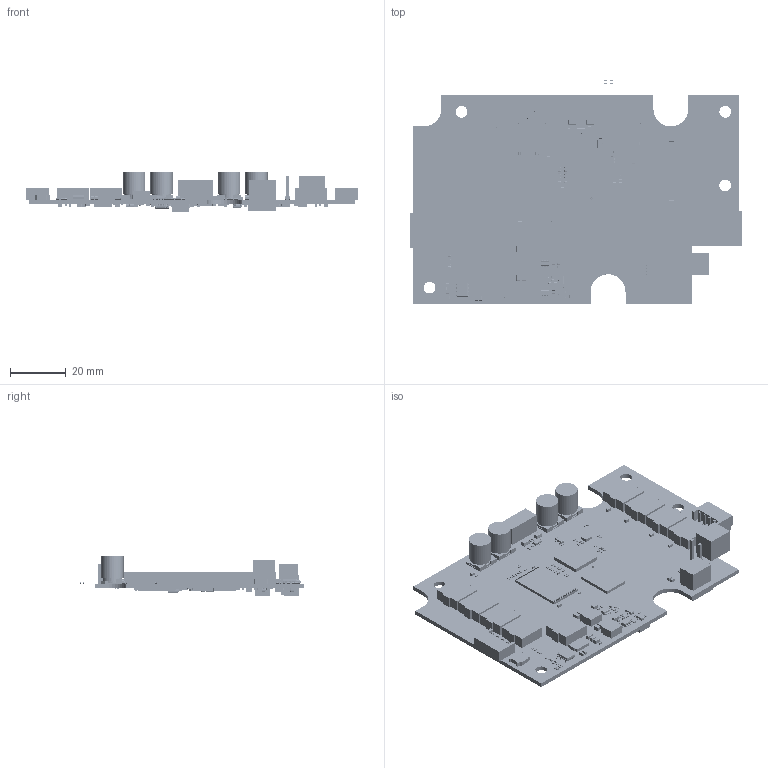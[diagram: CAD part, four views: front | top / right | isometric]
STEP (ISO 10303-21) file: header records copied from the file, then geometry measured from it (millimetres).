
FILE_DESCRIPTION(('STEP AP214'),'1');
FILE_NAME('AI2MAX_AMP_A113X_V03_1ST_210310-003.step','2021-03-10T06:16:08',(' '),(' '),'Spatial InterOp 3D','XD3DPlugin XRACreate',' ');
FILE_SCHEMA(('automotive_design'));
Length unit declared in the file: millimetre
Products named in the file (239): Submodel-D:\Artwork\Artwork\ALTECH\AI2MAX_AMP\REV03\1.PCB\AI2MAX_AMP_A113X_V03_1ST_210310-003_PCB\3D\Input_S\RES1005.xtd; RES1005; Submodel-R1005_part_simplified_R1005; DesignRootModel; Submodel-D:\Artwork\Artwork\ALTECH\AI2MAX_AMP\REV03\1.PCB\AI2MAX_AMP_A113X_V03_1ST_210310-003_PCB\3D\Input_S\CAP1608_H1_1.xtd; CAP1608_H1_1; Submodel-C1608_part_simplified_C1608; Submodel-D:\Artwork\Artwork\ALTECH\AI2MAX_AMP\REV03\1.PCB\AI2MAX_AMP_A113X_V03_1ST_210310-003_PCB\3D\Input_S\ALCAP_8PI_H10.xtd; ALCAP_8PI_H10; Submodel-ECAP_8PI_H10_part_simplified_ECAP_8PI_H10; Submodel-D:\Artwork\Artwork\ALTECH\AI2MAX_AMP\REV03\1.PCB\AI2MAX_AMP_A113X_V03_1ST_210310-003_PCB\3D\Input_S\RES1608.xtd; RES1608; Submodel-R1608_part_simplified_R1608; Submodel-D:\Artwork\Artwork\ALTECH\AI2MAX_AMP\REV03\1.PCB\AI2MAX_AMP_A113X_V03_1ST_210310-003_PCB\3D\Input_S\CAP1005_H0_7.xtd; CAP1005_H0_7; Submodel-C1005_part_simplified_C1005; Submodel-D:\Artwork\Artwork\ALTECH\AI2MAX_AMP\REV03\1.PCB\AI2MAX_AMP_A113X_V03_1ST_210310-003_PCB\3D\Input_S\SOP23-6P_H1_3.xtd; SOP23-6P_H1_3; Submodel-SOT23-6P_TMI3252S_part_simplified_SOT23-6P_TMI3252S; uid__9223372036855096900; Submodel-noModelForPart_TP1_0PI_3184479478; placementOutline; Submodel-TP1_0PI_3184479478_part_TP1_0PI; Submodel-noModelForPart_TP1_0PI_2921635714; Submodel-TP1_0PI_2921635714_part_TP1_0PI; Submodel-noModelForPart_COIL_SPH10040_2549355602; Submodel-COIL_SPH10040_2549355602_part_COIL_SPH10040; Submodel-noModelForPart_COIL_SEP0503EBN_630355672; Submodel-COIL_SEP0503EBN_630355672_part_COIL_SEP0503EBN; Submodel-D:\Artwork\Artwork\ALTECH\AI2MAX_AMP\REV03\1.PCB\AI2MAX_AMP_A113X_V03_1ST_210310-003_PCB\3D\ImportedPartModels\RES2012.step; RES2012.step; Submodel-R2012_part_R2012; Submodel-noModelForPart_COIL_SEP0503EBN_2013504752; Submodel-COIL_SEP0503EBN_2013504752_part_COIL_SEP0503EBN; Submodel-D:\Artwork\Artwork\ALTECH\AI2MAX_AMP\REV03\1.PCB\AI2MAX_AMP_A113X_V03_1ST_210310-003_PCB\3D\ImportedPartModels\CAP2012_H1_5.step; CAP2012_H1_5.step; Submodel-C2012_part_C2012; Submodel-D:\Artwork\Artwork\ALTECH\AI2MAX_AMP\REV03\1.PCB\AI2MAX_AMP_A113X_V03_1ST_210310-003_PCB\3D\ImportedPartModels\SOD-123_H1_35_1N4148W_DIODES.step; SOD-123_H1_35_1N4148W_DIODES.step; Submodel-SOD-323_SZESD7371HT1G_part_SOD-323_SZESD7371HT1G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
Assembly tree (700 placements, depth 5):
  ProductRootModel
    DesignRootModel
      Submodel-R1005_part_simplified_R1005  x140
        Submodel-D:\Artwork\Artwork\ALTECH\AI2MAX_AMP\REV03\1.PCB\AI2MAX_AMP_A113X_V03_1ST_210310-003_PCB\3D\Input_S\RES1005.xtd
          RES1005
      Submodel-C1608_part_simplified_C1608  x73
        Submodel-D:\Artwork\Artwork\ALTECH\AI2MAX_AMP\REV03\1.PCB\AI2MAX_AMP_A113X_V03_1ST_210310-003_PCB\3D\Input_S\CAP1608_H1_1.xtd
          CAP1608_H1_1
      Submodel-ECAP_8PI_H10_part_simplified_ECAP_8PI_H10  x4
        Submodel-D:\Artwork\Artwork\ALTECH\AI2MAX_AMP\REV03\1.PCB\AI2MAX_AMP_A113X_V03_1ST_210310-003_PCB\3D\Input_S\ALCAP_8PI_H10.xtd
          ALCAP_8PI_H10
      Submodel-R1608_part_simplified_R1608  x8
        Submodel-D:\Artwork\Artwork\ALTECH\AI2MAX_AMP\REV03\1.PCB\AI2MAX_AMP_A113X_V03_1ST_210310-003_PCB\3D\Input_S\RES1608.xtd
          RES1608
      Submodel-C1005_part_simplified_C1005  x85
        Submodel-D:\Artwork\Artwork\ALTECH\AI2MAX_AMP\REV03\1.PCB\AI2MAX_AMP_A113X_V03_1ST_210310-003_PCB\3D\Input_S\CAP1005_H0_7.xtd
          CAP1005_H0_7
      Submodel-SOT23-6P_TMI3252S_part_simplified_SOT23-6P_TMI3252S  x4
        Submodel-D:\Artwork\Artwork\ALTECH\AI2MAX_AMP\REV03\1.PCB\AI2MAX_AMP_A113X_V03_1ST_210310-003_PCB\3D\Input_S\SOP23-6P_H1_3.xtd
          SOP23-6P_H1_3
      uid__9223372036855096900
      Submodel-TP1_0PI_3184479478_part_TP1_0PI  x14
        Submodel-noModelForPart_TP1_0PI_3184479478
          placementOutline
          placementOutline
          placementOutline
      Submodel-TP1_0PI_2921635714_part_TP1_0PI  x20
        Submodel-noModelForPart_TP1_0PI_2921635714
          placementOutline
          placementOutline
          placementOutline
      Submodel-COIL_SPH10040_2549355602_part_COIL_SPH10040  x9
        Submodel-noModelForPart_COIL_SPH10040_2549355602
          placementOutline
          placementOutline
          placementOutline
      Submodel-COIL_SEP0503EBN_630355672_part_COIL_SEP0503EBN  x2
        Submodel-noModelForPart_COIL_SEP0503EBN_630355672
          placementOutline
          placementOutline
          placementOutline
      Submodel-R2012_part_R2012  x17
        Submodel-D:\Artwork\Artwork\ALTECH\AI2MAX_AMP\REV03\1.PCB\AI2MAX_AMP_A113X_V03_1ST_210310-003_PCB\3D\ImportedPartModels\RES2012.step
          RES2012.step
      Submodel-COIL_SEP0503EBN_2013504752_part_COIL_SEP0503EBN  x2
        Submodel-noModelForPart_COIL_SEP0503EBN_2013504752
          placementOutline
          placementOutline
          placementOutline
      Submodel-C2012_part_C2012  x15
        Submodel-D:\Artwork\Artwork\ALTECH\AI2MAX_AMP\REV03\1.PCB\AI2MAX_AMP_A113X_V03_1ST_210310-003_PCB\3D\ImportedPartModels\CAP2012_H1_5.step
          CAP2012_H1_5.step
      Submodel-SOD-323_SZESD7371HT1G_part_SOD-323_SZESD7371HT1G  x4
        Submodel-D:\Artwork\Artwork\ALTECH\AI2MAX_AMP\REV03\1.PCB\AI2MAX_AMP_A113X_V03_1ST_210310-003_PCB\3D\ImportedPartModels\SOD-123_H1_35_1N4148W_DIODES.step
          SOD-123_H1_35_1N4148W_DIODES.step
      Submodel-LED1608_part_LED1608
        Submodel-D:\Artwork\Artwork\ALTECH\AI2MAX_AMP\REV03\1.PCB\AI2MAX_AMP_A113X_V03_1ST_210310-003_PCB\3D\ImportedPartModels\RES1608.step
          RES1608.step
      Submodel-SOD123FL_SMF36A_2358664987_part_SOD123FL_SMF36A  x8
        Submodel-noModelForPart_SOD123FL_SMF36A_2358664987
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Bounding box: 119 x 80.48 x 14.6 mm (x, y, z)
Volume: 23457.8 mm3; surface area: 32770.4 mm2
Topology: 1732 solids, 1738 shells, 23826 faces, 52480 edges, 28762 vertices
Faces by surface type: plane 10996, cylinder 9322, sphere 3372, bspline 136
Full cylindrical faces by diameter (mm): 0.2 x34, 0.5 x2, 0.6 x34, 1.005 x34, 2 x1, 4.2 x4, 7 x4, 8 x4
Entity records: 89530 total; most frequent: CARTESIAN_POINT 13242, DIRECTION 11635, ORIENTED_EDGE 9143, EDGE_CURVE 4573, AXIS2_PLACEMENT_3D 4066, LINE 3503, VECTOR 3503, VERTEX_POINT 2757
